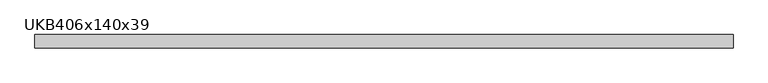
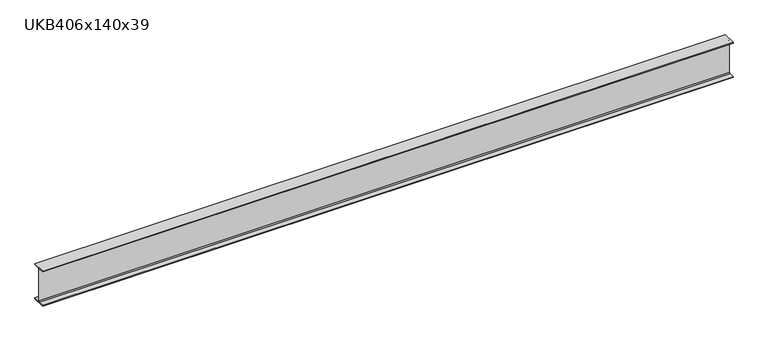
"""IFC4 building model written with IfcOpenShell, lengths in millimetres: beam geometry, UKB-UK Beams : UKB406x140x39."""

from ifc_helpers import new_model, si_unit, point, frame, frame_2d, origin, place, context, project, spatial, polyline, circle_curve, trimmed, segment, composite_curve, outline, extrude, source, transform, mapped, element, save


def ukb406x140x39_071d9f23(model_context):
    return source(origin(), model_context, "Body", "SweptSolid", [
        extrude(outline(composite_curve([segment(polyline([(70.9, -190.4), (70.9, -199.0), (-70.9, -199.0), (-70.9, -190.4), (-13.4, -190.4)]), True, "CONTINUOUS"), segment(trimmed(circle_curve(frame_2d((-13.4, -180.2)), 10.2), [point((-13.4, -190.4))], [point((-3.2, -180.2))], True, "CARTESIAN"), True, "CONTINUOUS"), segment(polyline([(-3.2, -180.2), (-3.2, 180.2)]), True, "CONTINUOUS"), segment(trimmed(circle_curve(frame_2d((-13.4, 180.2)), 10.2), [point((-3.2, 180.2))], [point((-13.4, 190.4))], True, "CARTESIAN"), True, "CONTINUOUS"), segment(polyline([(-13.4, 190.4), (-70.9, 190.4), (-70.9, 199.0), (70.9, 199.0), (70.9, 190.4), (13.4, 190.4)]), True, "CONTINUOUS"), segment(trimmed(circle_curve(frame_2d((13.4, 180.2)), 10.2), [point((13.4, 190.4))], [point((3.2, 180.2))], True, "CARTESIAN"), True, "CONTINUOUS"), segment(polyline([(3.2, 180.2), (3.2, -180.2)]), True, "CONTINUOUS"), segment(trimmed(circle_curve(frame_2d((13.4, -180.2)), 10.2), [point((3.2, -180.2))], [point((13.4, -190.4))], True, "CARTESIAN"), True, "CONTINUOUS"), segment(polyline([(13.4, -190.4), (70.9, -190.4)]), True, "CONTINUOUS")], self_intersect=False)), frame((-3721.0, 0.0, 0.0), z_axis=(1.0, 0.0, 0.0), x_axis=(0.0, 1.0, 0.0)), (0.0, 0.0, 1.0), 7442.0),
    ])


if __name__ == "__main__":
    model = new_model("IFC4")
    model_context = context("Model", 3, world=origin())
    ifc_project = project(units=[si_unit("LENGTHUNIT", "METRE", prefix="MILLI")], contexts=[model_context])
    site = spatial("IfcSite", under=ifc_project)
    building = spatial("IfcBuilding", under=site)
    placement = place(None, origin())
    ukb406x140x39_shape = ukb406x140x39_071d9f23(model_context)
    element("IfcBeam", 1, ObjectType="UKB-UK Beams : UKB406x140x39", at=placement, inside=building, context=model_context, shape_type="MappedRepresentation", body=[
        mapped(ukb406x140x39_shape, transform((0.0, 0.0, 0.0), x_axis=(1.0, 0.0, 0.0), y_axis=(0.0, 1.0, 0.0), z_axis=(0.0, 0.0, 1.0))),
    ])
    save(model, "model.ifc")
